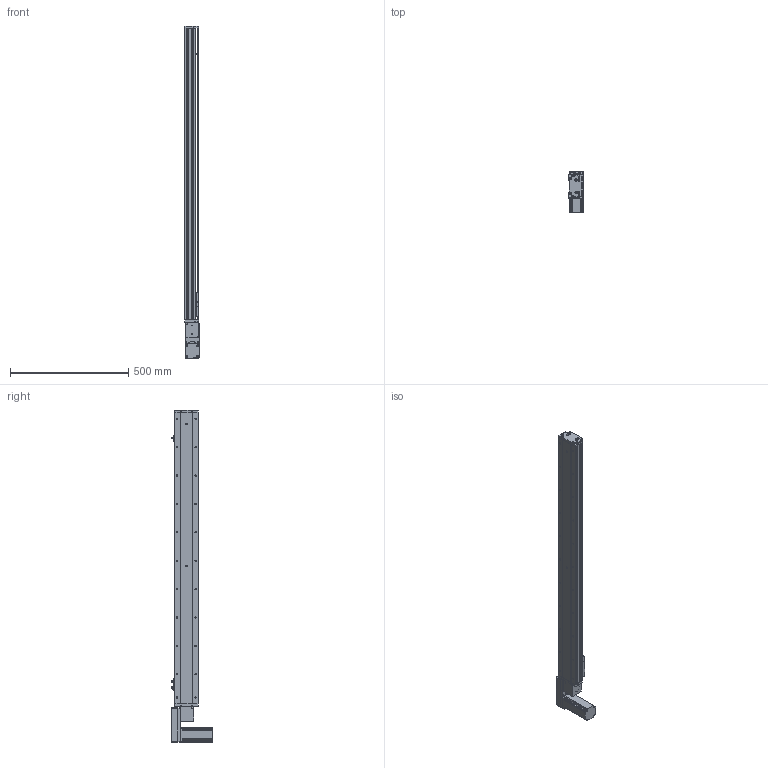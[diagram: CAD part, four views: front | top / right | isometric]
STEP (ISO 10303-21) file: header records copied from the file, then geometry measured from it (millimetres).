
FILE_DESCRIPTION (( 'STEP AP214' ), '1' );
FILE_NAME ('KSD100B-S1050-MLB-CM.STEP', '2019-11-09T03:01:45', ( '微软用户' ), ( '微软中国' ), 'SwSTEP 2.0', 'SolidWorks 2014', '' );
FILE_SCHEMA (( 'AUTOMOTIVE_DESIGN' ));
Length unit declared in the file: millimetre
Products named in the file (12): 悵誘欶奻狟殏; 100宽马达安装板连板上下折丝杆同步带; 台达ECMA－C20604AS伺服电机; U倰嫖萇EEㄜSX672; 覜茼え100遵圉猾敕; 100宽防尘板1050行程-同步带; 100宽马达安装板同步带左; 100宽同步带安装板半封闭; 100宽马达安装板同步带; 100遵傷啣肮祭湍; 100宽底板半封闭同步带1050行程; KSD100B-S1050-MLB-CM
Assembly tree (13 placements, depth 2):
  KSD100B-S1050-MLB-CM
    100宽底板半封闭同步带1050行程
    100遵傷啣肮祭湍
    100宽马达安装板同步带
    100宽同步带安装板半封闭
    100宽马达安装板同步带左
    100宽防尘板1050行程-同步带
    覜茼え100遵圉猾敕
    U倰嫖萇EEㄜSX672  x3
    台达ECMA－C20604AS伺服电机
    100宽马达安装板连板上下折丝杆同步带
    悵誘欶奻狟殏
Bounding box: 61 x 174.7 x 1403 mm (x, y, z)
Volume: 2970192.3 mm3; surface area: 989308 mm2
Topology: 14 solids, 14 shells, 1495 faces, 4214 edges, 2677 vertices
Faces by surface type: cylinder 757, plane 595, cone 143
Entity records: 53475 total; most frequent: CARTESIAN_POINT 10748, DIRECTION 7314, ORIENTED_EDGE 7048, EDGE_CURVE 3524, AXIS2_PLACEMENT_3D 2677, VERTEX_POINT 2301, LINE 1960, VECTOR 1960
